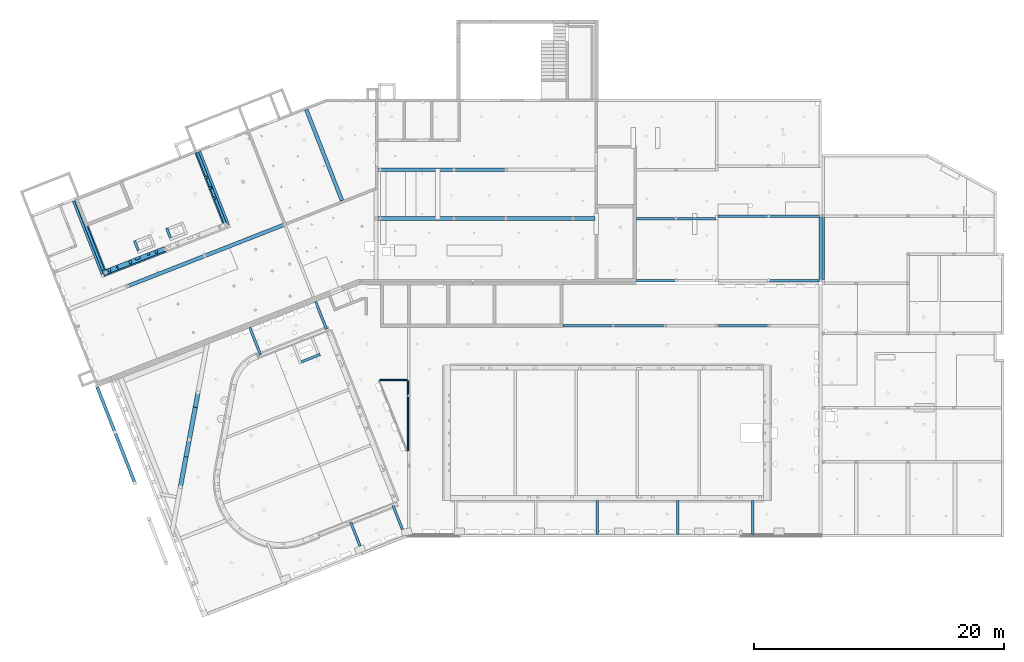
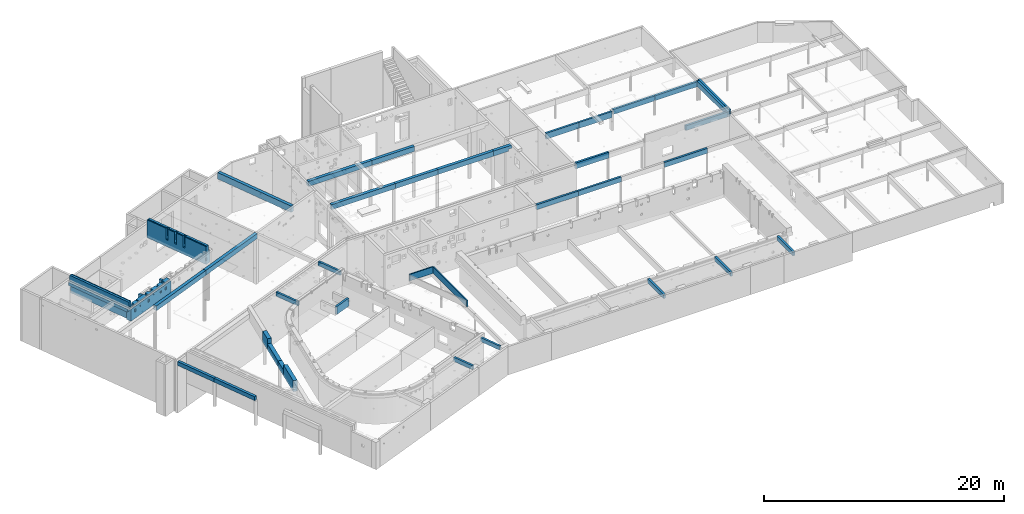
# One storey, part 4 of 28: 41 beams, 21 openings.
"""IFC2X3 building model written with IfcOpenShell, lengths in metres."""

from ifc_helpers import new_model, entity, si_unit, converted_unit, direction, frame, frame_2d, origin, origin_with_axes, place, context, subcontext, project, spatial, polyline, rectangle, outline, extrude, material, element, save


model = new_model("IFC2X3")

# Units and contexts
model_context = context("Model", 3, precision=1e-05, world=origin(), true_north=direction((-0.407059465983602, -0.913401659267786)))
body_context = subcontext(model_context, "Body", "Model", "MODEL_VIEW")
ifc_project = project(units=[si_unit("LENGTHUNIT", "METRE"), si_unit("AREAUNIT", "SQUARE_METRE"), si_unit("VOLUMEUNIT", "CUBIC_METRE"), si_unit("MASSUNIT", "GRAM", prefix="KILO"), converted_unit("PLANEANGLEUNIT", "DEGREE", entity("IfcPlaneAngleMeasure", 0.0174532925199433), si_unit("PLANEANGLEUNIT", "RADIAN"), dimensions=[0, 0, 0, 0, 0, 0, 0])], contexts=[model_context])

# Site, buildings, storey
site_placement = place(None, origin())
site = spatial("IfcSite", under=ifc_project, at=site_placement, Name="Site", CompositionType="ELEMENT")
building_1_placement = place(site_placement, origin())
building_1 = spatial("IfcBuilding", under=site, at=building_1_placement, Name="Site", CompositionType="COMPLEX")
building_2_placement = place(building_1_placement, origin())
building_2 = spatial("IfcBuilding", under=building_1, at=building_2_placement, Name="Bâtiments", CompositionType="ELEMENT")
storey_placement = place(building_2_placement, frame((0.0, 0.0, -5.3)))
storey = spatial("IfcBuildingStorey", under=building_2, at=storey_placement, Name="SOUS-SOL", CompositionType="ELEMENT", Elevation=-5.3)

# Beams
ifc_material_1 = material(Name="Béton")
beam_1_placement = place(storey_placement, frame((8.2763152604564, -1.96282731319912, 3.35), z_axis=(0.0, 0.0, 1.0), x_axis=(0.36523267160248, -0.930916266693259, 0.0)))
element("IfcBeam", 1, at=beam_1_placement, inside=storey, material=ifc_material_1, Name="PoR 00", context=body_context, shape_type="SweptSolid", body=[
    extrude(rectangle(XDim=0.199999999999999, YDim=0.62, at=frame_2d((0.0999999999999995, 0.31), x_axis=(1.0, 0.0))), frame((0.0, 0.0, 0.0), z_axis=(1.0, 0.0, 0.0), x_axis=(0.0, 1.0, 0.0)), (0.0, 0.0, 1.0), 0.849999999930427),
])
ifc_material_2 = material(Name="Béton")
beam_2_placement = place(storey_placement, frame((10.8546356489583, -0.952376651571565, 3.35), z_axis=(0.0, 0.0, 1.0), x_axis=(0.365232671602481, -0.930916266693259, 0.0)))
element("IfcBeam", 2, at=beam_2_placement, inside=storey, material=ifc_material_2, Name="PoR 00", context=body_context, shape_type="SweptSolid", body=[
    extrude(rectangle(XDim=0.2, YDim=0.62, at=frame_2d((0.1, 0.31), x_axis=(1.0, 0.0))), frame((0.0, 0.0, 0.0), z_axis=(1.0, 0.0, 0.0), x_axis=(0.0, 1.0, 0.0)), (0.0, 0.0, 1.0), 0.849989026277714),
])

# Beam, openings
ifc_material_3 = material(Name="Béton")
beam_3_placement = place(storey_placement, frame((5.95754285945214, -4.80607130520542, 3.72), z_axis=(0.0, 0.0, 1.0), x_axis=(0.93091065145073, 0.365246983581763, 0.0)))
beam_3 = element("IfcBeam", 3, at=beam_3_placement, inside=storey, material=ifc_material_3, Name="PoR 001", context=body_context, shape_type="SweptSolid", body=[
    extrude(outline(polyline([(1.33, 0.390003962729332), (1.23, 0.390003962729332), (1.23, 0.500003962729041), (0.0, 0.500003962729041), (0.0, 0.0), (1.33, 3.96273035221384e-06), (1.33, 0.390003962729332)])), frame((0.0, 0.500003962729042, 0.0), z_axis=(1.0, 0.0, 0.0), x_axis=(0.0, 0.0, 1.0)), (0.0, 0.0, 1.0), 5.33638093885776),
])
opening_1_placement = place(beam_3_placement, frame((0.359028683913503, 0.500002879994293, 0.25), z_axis=(-1.48517478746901e-06, -0.999999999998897, 0.0), x_axis=(0.0, 0.0, 1.0)))
element("IfcOpeningElement", 4, at=opening_1_placement, cuts=beam_3, Name="Rainure X", ObjectType="Opening", context=body_context, shape_type="SweptSolid", body=[
    extrude(outline(polyline([(0.0, 0.0499999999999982), (1.33, 0.0499999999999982), (1.33, 0.0), (0.0, 0.0), (0.0, 0.0499999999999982)])), origin_with_axes(), (0.0, 0.0, 1.0), 0.0500000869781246),
])
opening_2_placement = place(beam_3_placement, frame((4.03404101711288, 0.299997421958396, 0.74), z_axis=(-1.48517478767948e-06, -0.999999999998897, 0.0), x_axis=(0.0, 0.0, 1.0)))
element("IfcOpeningElement", 5, at=opening_2_placement, cuts=beam_3, Name="Percement dans mur", ObjectType="Opening", context=body_context, shape_type="SweptSolid", body=[
    extrude(outline(polyline([(0.0, 0.200000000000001), (0.2, 0.200000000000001), (0.2, 0.0), (0.0, 0.0), (0.0, 0.200000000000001)])), origin_with_axes(), (0.0, 0.0, 1.0), 0.299999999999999),
])
opening_3_placement = place(beam_3_placement, frame((4.70404086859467, 0.199996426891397, 0.68), z_axis=(-1.48517478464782e-06, -0.999999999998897, 0.0), x_axis=(0.0, 0.0, 1.0)))
element("IfcOpeningElement", 6, at=opening_3_placement, cuts=beam_3, Name="Percement dans mur", ObjectType="Opening", context=body_context, shape_type="SweptSolid", body=[
    extrude(outline(polyline([(0.0, 0.200000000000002), (0.3, 0.200000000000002), (0.3, 0.0), (0.0, 0.0), (0.0, 0.200000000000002)])), origin_with_axes(), (0.0, 0.0, 1.0), 0.2),
])
opening_4_placement = place(beam_3_placement, frame((3.08403716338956, 0.299998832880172, 1.03), z_axis=(-1.48517479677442e-06, -0.999999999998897, 0.0), x_axis=(0.0, 0.0, 1.0)))
element("IfcOpeningElement", 7, at=opening_4_placement, cuts=beam_3, Name="Percement dans mur", ObjectType="Opening", context=body_context, shape_type="SweptSolid", body=[
    extrude(outline(polyline([(0.0, 0.100000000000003), (0.1, 0.100000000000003), (0.1, 0.0), (0.0, 0.0), (0.0, 0.100000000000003)])), origin_with_axes(), (0.0, 0.0, 1.0), 0.299999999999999),
])
opening_5_placement = place(beam_3_placement, frame((2.45902093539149, 0.199999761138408, 0.68), z_axis=(-1.48517478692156e-06, -0.999999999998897, 0.0), x_axis=(0.0, 0.0, 1.0)))
element("IfcOpeningElement", 8, at=opening_5_placement, cuts=beam_3, Name="Percement dans mur", ObjectType="Opening", context=body_context, shape_type="SweptSolid", body=[
    extrude(outline(polyline([(0.0, 0.200000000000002), (0.3, 0.200000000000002), (0.3, 0.0), (0.0, 0.0), (0.0, 0.200000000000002)])), origin_with_axes(), (0.0, 0.0, 1.0), 0.199999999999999),
])
opening_6_placement = place(beam_3_placement, frame((1.28402222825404, 0.220001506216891, 0.83), z_axis=(-1.4851747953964e-06, -0.999999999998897, 0.0), x_axis=(0.0, 0.0, 1.0)))
element("IfcOpeningElement", 9, at=opening_6_placement, cuts=beam_3, Name="Percement dans mur", ObjectType="Opening", context=body_context, shape_type="SweptSolid", body=[
    extrude(outline(polyline([(0.0, 0.1), (0.15, 0.1), (0.15, 0.0), (0.0, 0.0), (0.0, 0.1)])), origin_with_axes(), (0.0, 0.0, 1.0), 0.220000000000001),
])
opening_7_placement = place(beam_3_placement, frame((0.659029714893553, 0.200002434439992, 0.68), z_axis=(-1.48517480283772e-06, -0.999999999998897, 0.0), x_axis=(0.0, 0.0, 1.0)))
element("IfcOpeningElement", 10, at=opening_7_placement, cuts=beam_3, Name="Percement dans mur", ObjectType="Opening", context=body_context, shape_type="SweptSolid", body=[
    extrude(outline(polyline([(0.0, 0.199999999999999), (0.3, 0.199999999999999), (0.3, 0.0), (0.0, 0.0), (0.0, 0.199999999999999)])), origin_with_axes(), (0.0, 0.0, 1.0), 0.2),
])
opening_8_placement = place(beam_3_placement, frame((2.45902138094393, 0.499999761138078, 0.68), z_axis=(-1.4851747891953e-06, -0.999999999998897, 0.0), x_axis=(0.0, 0.0, 1.0)))
element("IfcOpeningElement", 11, at=opening_8_placement, cuts=beam_3, Name="N°8", ObjectType="Opening", context=body_context, shape_type="SweptSolid", body=[
    extrude(outline(polyline([(0.0, 0.2), (0.65, 0.2), (0.65, 0.0), (0.0, 0.0), (0.0, 0.2)])), origin_with_axes(), (0.0, 0.0, 1.0), 0.3),
])
opening_9_placement = place(beam_3_placement, frame((1.28402264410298, 0.50000150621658, 0.83), z_axis=(-1.48517479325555e-06, -0.999999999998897, 0.0), x_axis=(0.0, 0.0, 1.0)))
element("IfcOpeningElement", 12, at=opening_9_placement, cuts=beam_3, Name="N°11", ObjectType="Opening", context=body_context, shape_type="SweptSolid", body=[
    extrude(outline(polyline([(0.0, 0.0999999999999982), (0.5, 0.0999999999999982), (0.5, 0.0), (0.0, 0.0), (0.0, 0.0999999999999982)])), origin_with_axes(), (0.0, 0.0, 1.0), 0.279999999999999),
])
opening_10_placement = place(beam_3_placement, frame((3.23403746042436, 0.499998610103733, 0.68), z_axis=(-1.48517478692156e-06, -0.999999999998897, 0.0), x_axis=(0.0, 0.0, 1.0)))
element("IfcOpeningElement", 13, at=opening_10_placement, cuts=beam_3, Name="N°6", ObjectType="Opening", context=body_context, shape_type="SweptSolid", body=[
    extrude(outline(polyline([(0.0, 0.400000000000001), (0.65, 0.400000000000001), (0.65, 0.0), (0.0, 0.0), (0.0, 0.400000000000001)])), origin_with_axes(), (0.0, 0.0, 1.0), 0.199999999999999),
])
opening_11_placement = place(beam_3_placement, frame((4.03404131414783, 0.499997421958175, 0.74), z_axis=(-1.48517480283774e-06, -0.999999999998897, 0.0), x_axis=(0.0, 0.0, 1.0)))
element("IfcOpeningElement", 14, at=opening_11_placement, cuts=beam_3, Name="N°4", ObjectType="Opening", context=body_context, shape_type="SweptSolid", body=[
    extrude(outline(polyline([(0.0, 0.200000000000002), (0.59, 0.200000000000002), (0.59, 0.0), (0.0, 0.0), (0.0, 0.200000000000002)])), origin_with_axes(), (0.0, 0.0, 1.0), 0.199999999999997),
])
opening_12_placement = place(beam_3_placement, frame((4.70404131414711, 0.499996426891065, 0.68), z_axis=(-1.48517479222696e-06, -0.999999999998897, 0.0), x_axis=(0.0, 0.0, 1.0)))
element("IfcOpeningElement", 15, at=opening_12_placement, cuts=beam_3, Name="N°8", ObjectType="Opening", context=body_context, shape_type="SweptSolid", body=[
    extrude(outline(polyline([(0.0, 0.2), (0.65, 0.2), (0.65, 0.0), (0.0, 0.0), (0.0, 0.2)])), origin_with_axes(), (0.0, 0.0, 1.0), 0.299999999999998),
])
opening_13_placement = place(beam_3_placement, frame((0.659030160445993, 0.500002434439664, 0.68), z_axis=(-1.48517479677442e-06, -0.999999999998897, 0.0), x_axis=(0.0, 0.0, 1.0)))
element("IfcOpeningElement", 16, at=opening_13_placement, cuts=beam_3, Name="N°9", ObjectType="Opening", context=body_context, shape_type="SweptSolid", body=[
    extrude(outline(polyline([(0.0, 0.199999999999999), (0.65, 0.199999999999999), (0.65, 0.0), (0.0, 0.0), (0.0, 0.199999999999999)])), origin_with_axes(), (0.0, 0.0, 1.0), 0.3),
])

# Beams
ifc_material_4 = material(Name="Béton")
beam_4_placement = place(storey_placement, frame((13.9273247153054, -3.01062935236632, 4.66), z_axis=(0.0, 0.0, 1.0), x_axis=(-0.930910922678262, -0.365246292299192, 0.0)))
element("IfcBeam", 17, at=beam_4_placement, inside=storey, material=ifc_material_4, Name="Po 004", context=body_context, shape_type="SweptSolid", body=[
    extrude(rectangle(XDim=0.299999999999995, YDim=0.5, at=frame_2d((0.149999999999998, 0.25), x_axis=(1.0, 0.0))), frame((0.0, 0.0, 0.0), z_axis=(1.0, 0.0, 0.0), x_axis=(0.0, 1.0, 0.0)), (0.0, 0.0, 1.0), 6.61693895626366),
])
ifc_material_5 = material(Name="Béton")
beam_5_placement = place(storey_placement, frame((20.3599322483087, -0.486772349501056, 4.66), z_axis=(0.0, 0.0, 1.0), x_axis=(-0.930910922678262, -0.365246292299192, 0.0)))
element("IfcBeam", 18, at=beam_5_placement, inside=storey, material=ifc_material_5, Name="Po 005", context=body_context, shape_type="SweptSolid", body=[
    extrude(rectangle(XDim=0.299999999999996, YDim=0.5, at=frame_2d((0.149999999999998, 0.25), x_axis=(1.0, 0.0))), frame((0.0, 0.0, 0.0), z_axis=(1.0, 0.0, 0.0), x_axis=(0.0, 1.0, 0.0)), (0.0, 0.0, 1.0), 6.91001402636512),
])
ifc_material_6 = material(Name="Béton")
beam_6_placement = place(storey_placement, frame((21.991871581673, 8.52116927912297, 4.53), z_axis=(0.0, 0.0, 1.0), x_axis=(0.365246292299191, -0.930910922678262, 0.0)))
element("IfcBeam", 19, at=beam_6_placement, inside=storey, material=ifc_material_6, Name="Po 009", context=body_context, shape_type="SweptSolid", body=[
    extrude(rectangle(XDim=0.3, YDim=0.65, at=frame_2d((0.15, 0.325), x_axis=(1.0, 0.0))), frame((0.0, 0.0, 0.0), z_axis=(1.0, 0.0, 0.0), x_axis=(0.0, 1.0, 0.0)), (0.0, 0.0, 1.0), 7.83953146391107),
])
ifc_material_7 = material(Name="Béton")
beam_7_placement = place(storey_placement, frame((27.8826390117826, 3.60172912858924, 4.68), z_axis=(0.0, 0.0, 1.0), x_axis=(1.0, -2.13917543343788e-09, 0.0)))
element("IfcBeam", 20, at=beam_7_placement, inside=storey, material=ifc_material_7, Name="Po 012", context=body_context, shape_type="SweptSolid", body=[
    extrude(rectangle(XDim=0.3, YDim=0.5, at=frame_2d((0.15, 0.25), x_axis=(1.0, 0.0))), frame((0.0, 0.0, 0.0), z_axis=(1.0, 0.0, 0.0), x_axis=(0.0, 1.0, 0.0)), (0.0, 0.0, 1.0), 6.13927240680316),
])
ifc_material_8 = material(Name="Béton")
beam_8_placement = place(storey_placement, frame((34.021911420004, 3.60172911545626, 4.68), z_axis=(0.0, 0.0, 1.0), x_axis=(1.0, 4.4922996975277e-10, 0.0)))
element("IfcBeam", 21, at=beam_8_placement, inside=storey, material=ifc_material_8, Name="Po 013", context=body_context, shape_type="SweptSolid", body=[
    extrude(rectangle(XDim=0.3, YDim=0.5, at=frame_2d((0.15, 0.25), x_axis=(1.0, 0.0))), frame((0.0, 0.0, 0.0), z_axis=(1.0, 0.0, 0.0), x_axis=(0.0, 1.0, 0.0)), (0.0, 0.0, 1.0), 4.09655083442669),
])
ifc_material_9 = material(Name="Béton")
beam_9_placement = place(storey_placement, frame((27.8826390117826, -0.298270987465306, 4.68), z_axis=(0.0, 0.0, 1.0), x_axis=(1.0, -2.13917543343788e-09, 0.0)))
element("IfcBeam", 22, at=beam_9_placement, inside=storey, material=ifc_material_9, Name="Po 020", context=body_context, shape_type="SweptSolid", body=[
    extrude(rectangle(XDim=0.3, YDim=0.5, at=frame_2d((0.15, 0.25), x_axis=(1.0, 0.0))), frame((0.0, 0.0, 0.0), z_axis=(1.0, 0.0, 0.0), x_axis=(0.0, 1.0, 0.0)), (0.0, 0.0, 1.0), 6.13927240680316),
])
ifc_material_10 = material(Name="Béton")
beam_10_placement = place(storey_placement, frame((34.0219114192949, -0.298270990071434, 4.68), z_axis=(0.0, 0.0, 1.0), x_axis=(1.0, 4.4922996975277e-10, 0.0)))
element("IfcBeam", 23, at=beam_10_placement, inside=storey, material=ifc_material_10, Name="Po 021", context=body_context, shape_type="SweptSolid", body=[
    extrude(rectangle(XDim=0.3, YDim=0.5, at=frame_2d((0.15, 0.25), x_axis=(1.0, 0.0))), frame((0.0, 0.0, 0.0), z_axis=(1.0, 0.0, 0.0), x_axis=(0.0, 1.0, 0.0)), (0.0, 0.0, 1.0), 4.09655083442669),
])
ifc_material_11 = material(Name="Béton")
beam_11_placement = place(storey_placement, frame((38.1184622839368, -0.298264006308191, 4.68), z_axis=(0.0, 0.0, 1.0), x_axis=(1.0, 4.537457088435e-10, 0.0)))
element("IfcBeam", 24, at=beam_11_placement, inside=storey, material=ifc_material_11, Name="Po 022", context=body_context, shape_type="SweptSolid", body=[
    extrude(rectangle(XDim=0.3, YDim=0.5, at=frame_2d((0.15, 0.25), x_axis=(1.0, 0.0))), frame((0.0, 0.0, 0.0), z_axis=(1.0, 0.0, 0.0), x_axis=(0.0, 1.0, 0.0)), (0.0, 0.0, 1.0), 5.37385864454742),
])

# Beam, opening
ifc_material_12 = material(Name="Béton")
beam_12_placement = place(storey_placement, frame((43.4923209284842, -0.298264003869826, 4.68), z_axis=(0.0, 0.0, 1.0), x_axis=(1.0, -2.13917541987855e-09, 0.0)))
beam_12 = element("IfcBeam", 25, at=beam_12_placement, inside=storey, material=ifc_material_12, Name="Po 023", context=body_context, shape_type="SweptSolid", body=[
    extrude(rectangle(XDim=0.3, YDim=0.5, at=frame_2d((0.15, 0.25), x_axis=(1.0, 0.0))), frame((0.0, 0.0, 0.0), z_axis=(1.0, 0.0, 0.0), x_axis=(0.0, 1.0, 0.0)), (0.0, 0.0, 1.0), 1.75032315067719),
])
opening_14_placement = place(beam_12_placement, frame((1.75032480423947, 0.299986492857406, 0.0), z_axis=(2.13917549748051e-09, -1.0, 0.0), x_axis=(0.0, 0.0, 1.0)))
element("IfcOpeningElement", 26, at=opening_14_placement, cuts=beam_12, Name="EL-022", ObjectType="Opening", context=body_context, shape_type="SweptSolid", body=[
    extrude(outline(polyline([(0.0, 0.35), (0.2, 0.35), (0.2, 0.0), (0.0, 0.0), (0.0, 0.35)])), origin_with_axes(), (0.0, 0.0, 1.0), 0.3),
])

# Beams
ifc_material_13 = material(Name="Béton")
beam_13_placement = place(storey_placement, frame((42.6996013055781, -8.83391058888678, 4.66), z_axis=(0.0, 0.0, 1.0), x_axis=(0.999999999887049, -1.50300277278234e-05, 0.0)))
element("IfcBeam", 27, at=beam_13_placement, inside=storey, material=ifc_material_13, Name="Po 040", context=body_context, shape_type="SweptSolid", body=[
    extrude(rectangle(XDim=0.199999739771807, YDim=0.5, at=frame_2d((0.0999998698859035, 0.25), x_axis=(1.0, 0.0))), frame((0.0, 0.0, 0.0), z_axis=(1.0, 0.0, 0.0), x_axis=(0.0, 1.0, 0.0)), (0.0, 0.0, 1.0), 4.01304038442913),
])
ifc_material_14 = material(Name="Béton")
beam_14_placement = place(storey_placement, frame((46.7126500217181, -8.83397090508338, 4.66), z_axis=(0.0, 0.0, 1.0), x_axis=(0.999999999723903, 2.34987893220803e-05, 0.0)))
element("IfcBeam", 28, at=beam_14_placement, inside=storey, material=ifc_material_14, Name="Po 041", context=body_context, shape_type="SweptSolid", body=[
    extrude(rectangle(XDim=0.199999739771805, YDim=0.5, at=frame_2d((0.0999998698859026, 0.25), x_axis=(1.0, 0.0))), frame((0.0, 0.0, 0.0), z_axis=(1.0, 0.0, 0.0), x_axis=(0.0, 1.0, 0.0)), (0.0, 0.0, 1.0), 4.1500044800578),
])
ifc_material_15 = material(Name="Béton")
beam_15_placement = place(storey_placement, frame((55.0126521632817, -8.83387390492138, 4.66), z_axis=(0.0, 0.0, 1.0), x_axis=(0.999999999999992, 1.2527502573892e-07, 0.0)))
element("IfcBeam", 29, at=beam_15_placement, inside=storey, material=ifc_material_15, Name="Po 043", context=body_context, shape_type="SweptSolid", body=[
    extrude(rectangle(XDim=0.199999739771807, YDim=0.5, at=frame_2d((0.0999998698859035, 0.25), x_axis=(1.0, 0.0))), frame((0.0, 0.0, 0.0), z_axis=(1.0, 0.0, 0.0), x_axis=(0.0, 1.0, 0.0)), (0.0, 0.0, 1.0), 4.14999999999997),
])
ifc_material_16 = material(Name="Béton")
beam_16_placement = place(storey_placement, frame((8.5223446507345, -21.2988772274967, 4.88), z_axis=(0.0, 0.0, 1.0), x_axis=(-0.365248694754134, 0.930909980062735, 0.0)))
element("IfcBeam", 30, at=beam_16_placement, inside=storey, material=ifc_material_16, Name="Po 067", context=body_context, shape_type="SweptSolid", body=[
    extrude(rectangle(XDim=0.249999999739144, YDim=0.4, at=frame_2d((0.124999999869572, 0.2), x_axis=(1.0, 0.0))), frame((0.0, 0.0, 0.0), z_axis=(1.0, 0.0, 0.0), x_axis=(0.0, 1.0, 0.0)), (0.0, 0.0, 1.0), 4.33437163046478),
])
ifc_material_17 = material(Name="Béton")
beam_17_placement = place(storey_placement, frame((6.9392210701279, -17.2639674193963, 4.88), z_axis=(0.0, 0.0, 1.0), x_axis=(-0.365248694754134, 0.930909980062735, 0.0)))
element("IfcBeam", 31, at=beam_17_placement, inside=storey, material=ifc_material_17, Name="Po 068", context=body_context, shape_type="SweptSolid", body=[
    extrude(rectangle(XDim=0.249999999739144, YDim=0.4, at=frame_2d((0.124999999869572, 0.2), x_axis=(1.0, 0.0))), frame((0.0, 0.0, 0.0), z_axis=(1.0, 0.0, 0.0), x_axis=(0.0, 1.0, 0.0)), (0.0, 0.0, 1.0), 3.90516050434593),
])
ifc_material_18 = material(Name="Béton")
beam_18_placement = place(storey_placement, frame((51.7385891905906, -0.248270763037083, 4.58), z_axis=(0.0, 0.0, 1.0), x_axis=(1.0, 4.53745668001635e-10, 0.0)))
element("IfcBeam", 32, at=beam_18_placement, inside=storey, material=ifc_material_18, Name="Po 025", context=body_context, shape_type="SweptSolid", body=[
    extrude(rectangle(XDim=0.2, YDim=0.6, at=frame_2d((0.1, 0.3), x_axis=(1.0, 0.0))), frame((0.0, 0.0, 0.0), z_axis=(1.0, 0.0, 0.0), x_axis=(0.0, 1.0, 0.0)), (0.0, 0.0, 1.0), 3.17389220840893),
])
ifc_material_19 = material(Name="Béton")
beam_19_placement = place(storey_placement, frame((48.5646969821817, -0.248270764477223, 4.58), z_axis=(0.0, 0.0, 1.0), x_axis=(1.0, 4.53745668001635e-10, 0.0)))
element("IfcBeam", 33, at=beam_19_placement, inside=storey, material=ifc_material_19, Name="Po 024", context=body_context, shape_type="SweptSolid", body=[
    extrude(rectangle(XDim=0.2, YDim=0.6, at=frame_2d((0.1, 0.3), x_axis=(1.0, 0.0))), frame((0.0, 0.0, 0.0), z_axis=(1.0, 0.0, 0.0), x_axis=(0.0, 1.0, 0.0)), (0.0, 0.0, 1.0), 3.17389220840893),
])
ifc_material_20 = material(Name="Béton")
beam_20_placement = place(storey_placement, frame((55.1124813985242, -0.0482709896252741, 4.68), z_axis=(0.0, 0.0, 1.0), x_axis=(1.0, 4.53745646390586e-10, 0.0)))
element("IfcBeam", 34, at=beam_20_placement, inside=storey, material=ifc_material_20, Name="Po 026", context=body_context, shape_type="SweptSolid", body=[
    extrude(rectangle(XDim=0.2, YDim=0.5, at=frame_2d((0.1, 0.25), x_axis=(1.0, 0.0))), frame((0.0, 0.0, 0.0), z_axis=(1.0, 0.0, 0.0), x_axis=(0.0, 1.0, 0.0)), (0.0, 0.0, 1.0), 4.05007138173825),
])
ifc_material_21 = material(Name="Béton")
beam_21_placement = place(storey_placement, frame((59.1625551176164, -0.0482709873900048, 4.68)))
element("IfcBeam", 35, at=beam_21_placement, inside=storey, material=ifc_material_21, Name="Po 027", context=body_context, shape_type="SweptSolid", body=[
    extrude(rectangle(XDim=0.2, YDim=0.5, at=frame_2d((0.1, 0.25), x_axis=(1.0, 0.0))), frame((0.0, 0.0, 0.0), z_axis=(1.0, 0.0, 0.0), x_axis=(0.0, 1.0, 0.0)), (0.0, 0.0, 1.0), 4.25083501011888),
])
ifc_material_22 = material(Name="Béton")
beam_22_placement = place(storey_placement, frame((63.4133901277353, -5.21895147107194, 4.76), z_axis=(0.0, 0.0, 1.0), x_axis=(0.0, 1.0, 0.0)))
element("IfcBeam", 36, at=beam_22_placement, inside=storey, material=ifc_material_22, Name="Po 058", context=body_context, shape_type="SweptSolid", body=[
    extrude(rectangle(XDim=0.2, YDim=0.5, at=frame_2d((0.1, 0.25), x_axis=(1.0, 0.0))), frame((0.0, 0.0, 0.0), z_axis=(1.0, 0.0, 0.0), x_axis=(0.0, 1.0, 0.0)), (0.0, 0.0, 1.0), 5.17068048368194),
])
ifc_material_23 = material(Name="Béton")
beam_23_placement = place(storey_placement, frame((59.1625551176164, -5.21895147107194, 4.76)))
element("IfcBeam", 37, at=beam_23_placement, inside=storey, material=ifc_material_23, Name="Po 037", context=body_context, shape_type="SweptSolid", body=[
    extrude(rectangle(XDim=0.200000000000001, YDim=0.5, at=frame_2d((0.1, 0.25), x_axis=(1.0, 0.0))), frame((0.0, 0.0, 0.0), z_axis=(1.0, 0.0, 0.0), x_axis=(0.0, 1.0, 0.0)), (0.0, 0.0, 1.0), 4.05083501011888),
])
ifc_material_24 = material(Name="Béton")
beam_24_placement = place(storey_placement, frame((63.6333927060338, -5.01896206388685, 4.76), z_axis=(0.0, 0.0, 1.0), x_axis=(-4.75225196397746e-08, 0.999999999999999, 0.0)))
element("IfcBeam", 38, at=beam_24_placement, inside=storey, material=ifc_material_24, Name="Po 059", context=body_context, shape_type="SweptSolid", body=[
    extrude(rectangle(XDim=0.2, YDim=0.5, at=frame_2d((0.1, 0.25), x_axis=(1.0, 0.0))), frame((0.0, 0.0, 0.0), z_axis=(1.0, 0.0, 0.0), x_axis=(0.0, 1.0, 0.0)), (0.0, 0.0, 1.0), 5.17068873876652),
])
ifc_material_25 = material(Name="Béton")
beam_25_placement = place(storey_placement, frame((48.5648131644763, -5.21894494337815, 4.58), z_axis=(0.0, 0.0, 1.0), x_axis=(1.0, 4.53745524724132e-10, 0.0)))
element("IfcBeam", 39, at=beam_25_placement, inside=storey, material=ifc_material_25, Name="Po 034", context=body_context, shape_type="SweptSolid", body=[
    extrude(rectangle(XDim=0.2, YDim=0.6, at=frame_2d((0.1, 0.3), x_axis=(1.0, 0.0))), frame((0.0, 0.0, 0.0), z_axis=(1.0, 0.0, 0.0), x_axis=(0.0, 1.0, 0.0)), (0.0, 0.0, 1.0), 3.17389220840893),
])

# Beam, openings
ifc_material_26 = material(Name="Béton")
beam_26_placement = place(storey_placement, frame((15.9756414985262, -0.608019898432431, 3.71999694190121), z_axis=(0.0, 0.0, 1.0), x_axis=(-0.365198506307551, 0.930929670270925, 0.0)))
beam_26 = element("IfcBeam", 40, at=beam_26_placement, inside=storey, material=ifc_material_26, Name="PoR 007", context=body_context, shape_type="SweptSolid", body=[
    extrude(outline(polyline([(1.82000098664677, 0.100004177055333), (1.84000098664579, 0.100003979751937), (1.84000305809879, 0.309980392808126), (1.23000305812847, 0.309986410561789), (1.23000493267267, 0.500002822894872), (4.93258727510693e-06, 0.500000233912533), (0.0, 0.0), (1.82000000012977, 4.17694769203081e-06), (1.82000098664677, 0.100004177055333)])), frame((0.0, 0.500002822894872, 0.0), z_axis=(1.0, 0.0, 0.0), x_axis=(0.0, 0.0, 1.0)), (0.0, 0.0, 1.0), 6.30105851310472),
])
opening_15_placement = place(beam_26_placement, frame((3.37571818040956, 0.299999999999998, 0.680003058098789), z_axis=(0.0, -1.0, 0.0), x_axis=(0.0, 0.0, 1.0)))
element("IfcOpeningElement", 41, at=opening_15_placement, cuts=beam_26, Name="Percement dans mur", ObjectType="Opening", context=body_context, shape_type="SweptSolid", body=[
    extrude(outline(polyline([(0.0, 0.2), (0.25, 0.2), (0.25, 0.0), (0.0, 0.0), (0.0, 0.2)])), origin_with_axes(), (0.0, 0.0, 1.0), 0.3),
])
opening_16_placement = place(beam_26_placement, frame((2.47574095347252, 0.3, 0.680003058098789), z_axis=(0.0, -1.0, 0.0), x_axis=(0.0, 0.0, 1.0)))
element("IfcOpeningElement", 42, at=opening_16_placement, cuts=beam_26, Name="Percement dans mur", ObjectType="Opening", context=body_context, shape_type="SweptSolid", body=[
    extrude(outline(polyline([(0.0, 0.2), (0.25, 0.2), (0.25, 0.0), (0.0, 0.0), (0.0, 0.2)])), origin_with_axes(), (0.0, 0.0, 1.0), 0.3),
])
opening_17_placement = place(beam_26_placement, frame((4.27573867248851, 0.299999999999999, 0.680003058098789), z_axis=(0.0, -1.0, 0.0), x_axis=(0.0, 0.0, 1.0)))
element("IfcOpeningElement", 43, at=opening_17_placement, cuts=beam_26, Name="Percement dans mur", ObjectType="Opening", context=body_context, shape_type="SweptSolid", body=[
    extrude(outline(polyline([(0.0, 0.2), (0.25, 0.2), (0.25, 0.0), (0.0, 0.0), (0.0, 0.2)])), origin_with_axes(), (0.0, 0.0, 1.0), 0.3),
])
opening_18_placement = place(beam_26_placement, frame((2.47574095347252, 0.500002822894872, 0.680003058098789), z_axis=(0.0, -1.0, 0.0), x_axis=(0.0, 0.0, 1.0)))
element("IfcOpeningElement", 44, at=opening_18_placement, cuts=beam_26, Name="N°7", ObjectType="Opening", context=body_context, shape_type="SweptSolid", body=[
    extrude(outline(polyline([(0.0, 0.2), (1.16, 0.2), (1.16, 0.0), (0.0, 0.0), (0.0, 0.2)])), origin_with_axes(), (0.0, 0.0, 1.0), 0.20000282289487),
])
opening_19_placement = place(beam_26_placement, frame((3.37571818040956, 0.500002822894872, 0.680003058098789), z_axis=(0.0, -1.0, 0.0), x_axis=(0.0, 0.0, 1.0)))
element("IfcOpeningElement", 45, at=opening_19_placement, cuts=beam_26, Name="Percement dans mur", ObjectType="Opening", context=body_context, shape_type="SweptSolid", body=[
    extrude(outline(polyline([(0.0, 0.2), (1.16, 0.2), (1.16, 0.0), (0.0, 0.0), (0.0, 0.2)])), origin_with_axes(), (0.0, 0.0, 1.0), 0.200002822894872),
])
opening_20_placement = place(beam_26_placement, frame((4.27573867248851, 0.500002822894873, 0.680003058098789), z_axis=(4.54740932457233e-15, -1.0, 0.0), x_axis=(0.0, 0.0, 1.0)))
element("IfcOpeningElement", 46, at=opening_20_placement, cuts=beam_26, Name="N°7", ObjectType="Opening", context=body_context, shape_type="SweptSolid", body=[
    extrude(outline(polyline([(0.0, 0.2), (1.16, 0.2), (1.16, 0.0), (0.0, 0.0), (0.0, 0.2)])), origin_with_axes(), (0.0, 0.0, 1.0), 0.200002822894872),
])
opening_21_placement = place(beam_26_placement, frame((3.37571818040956, 0.500002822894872, 1.53000305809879), z_axis=(0.0, -1.0, 0.0), x_axis=(0.0, 0.0, 1.0)))
element("IfcOpeningElement", 47, at=opening_21_placement, cuts=beam_26, Name="N°7a", ObjectType="Opening", context=body_context, shape_type="SweptSolid", body=[
    extrude(outline(polyline([(0.0, 0.2), (0.31, 0.2), (0.31, 0.0), (0.0, 0.0), (0.0, 0.2)])), origin_with_axes(), (0.0, 0.0, 1.0), 0.270002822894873),
])

# Beams
ifc_material_27 = material(Name="Béton")
beam_27_placement = place(storey_placement, frame((12.5799756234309, -17.8293974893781, 4.66), z_axis=(0.0, 0.0, 1.0), x_axis=(-0.183443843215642, -0.98303019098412, 0.0)))
element("IfcBeam", 48, at=beam_27_placement, inside=storey, material=ifc_material_27, Name="PoR 069", context=body_context, shape_type="SweptSolid", body=[
    extrude(rectangle(XDim=0.36, YDim=0.61, at=frame_2d((0.18, 0.305), x_axis=(1.0, 0.0))), frame((0.0, 0.0, 0.0), z_axis=(1.0, 0.0, 0.0), x_axis=(0.0, 1.0, 0.0)), (0.0, 0.0, 1.0), 1.40476968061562),
])
ifc_material_28 = material(Name="Béton")
beam_28_placement = place(storey_placement, frame((13.2827293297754, -14.063514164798, 4.66), z_axis=(0.0, 0.0, 1.0), x_axis=(-0.183443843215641, -0.98303019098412, 0.0)))
element("IfcBeam", 49, at=beam_28_placement, inside=storey, material=ifc_material_28, Name="PoR 069", context=body_context, shape_type="SweptSolid", body=[
    extrude(rectangle(XDim=0.359999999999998, YDim=1.12, at=frame_2d((0.179999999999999, 0.56), x_axis=(1.0, 0.0))), frame((0.0, 0.0, 0.0), z_axis=(1.0, 0.0, 0.0), x_axis=(0.0, 1.0, 0.0)), (0.0, 0.0, 1.0), 1.19689751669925),
])
ifc_material_29 = material(Name="Béton")
beam_29_placement = place(storey_placement, frame((28.9871760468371, -23.1818182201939, 4.76), z_axis=(0.0, 0.0, 1.0), x_axis=(0.365248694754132, -0.930909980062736, 0.0)))
element("IfcBeam", 50, at=beam_29_placement, inside=storey, material=ifc_material_29, Name="Po 075", context=body_context, shape_type="SweptSolid", body=[
    extrude(rectangle(XDim=0.19999955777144, YDim=0.4, at=frame_2d((0.0999997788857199, 0.2), x_axis=(1.0, 0.0))), frame((0.0, 0.0, 0.0), z_axis=(1.0, 0.0, 0.0), x_axis=(0.0, 1.0, 0.0)), (0.0, 0.0, 1.0), 2.0492),
])
ifc_material_30 = material(Name="Béton")
beam_30_placement = place(storey_placement, frame((25.5970140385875, -24.511975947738, 4.76), z_axis=(0.0, 0.0, 1.0), x_axis=(0.365248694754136, -0.930909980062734, 0.0)))
element("IfcBeam", 51, at=beam_30_placement, inside=storey, material=ifc_material_30, Name="Po 074", context=body_context, shape_type="SweptSolid", body=[
    extrude(rectangle(XDim=0.199999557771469, YDim=0.4, at=frame_2d((0.0999997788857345, 0.2), x_axis=(1.0, 0.0))), frame((0.0, 0.0, 0.0), z_axis=(1.0, 0.0, 0.0), x_axis=(0.0, 1.0, 0.0)), (0.0, 0.0, 1.0), 2.0513),
])
ifc_material_31 = material()
beam_31_placement = place(storey_placement, frame((45.5438147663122, -25.4449220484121, 4.76), z_axis=(0.0, 0.0, 1.0), x_axis=(-1.0796725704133e-14, 1.0, 0.0)))
element("IfcBeam", 52, at=beam_31_placement, inside=storey, material=ifc_material_31, Name="Po 081", context=body_context, shape_type="SweptSolid", body=[
    extrude(rectangle(XDim=0.19999955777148, YDim=0.4, at=frame_2d((0.09999977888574, 0.2), x_axis=(1.0, 0.0))), frame((0.0, 0.0, 0.0), z_axis=(1.0, 0.0, 0.0), x_axis=(0.0, 1.0, 0.0)), (0.0, 0.0, 1.0), 2.69561636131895),
])
ifc_material_32 = material(Name="Béton")
beam_32_placement = place(storey_placement, frame((51.993384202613, -25.4449220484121, 4.76), z_axis=(0.0, 0.0, 1.0), x_axis=(-1.0796725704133e-14, 1.0, 0.0)))
element("IfcBeam", 53, at=beam_32_placement, inside=storey, material=ifc_material_32, Name="Po 082", context=body_context, shape_type="SweptSolid", body=[
    extrude(rectangle(XDim=0.19999955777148, YDim=0.4, at=frame_2d((0.09999977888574, 0.2), x_axis=(1.0, 0.0))), frame((0.0, 0.0, 0.0), z_axis=(1.0, 0.0, 0.0), x_axis=(0.0, 1.0, 0.0)), (0.0, 0.0, 1.0), 2.69561636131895),
])
ifc_material_33 = material(Name="Béton")
beam_33_placement = place(storey_placement, frame((57.993384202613, -25.4449220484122, 4.76), z_axis=(0.0, 0.0, 1.0), x_axis=(-1.0796725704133e-14, 1.0, 0.0)))
element("IfcBeam", 54, at=beam_33_placement, inside=storey, material=ifc_material_33, Name="Po 083", context=body_context, shape_type="SweptSolid", body=[
    extrude(rectangle(XDim=0.19999955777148, YDim=0.4, at=frame_2d((0.09999977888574, 0.2), x_axis=(1.0, 0.0))), frame((0.0, 0.0, 0.0), z_axis=(1.0, 0.0, 0.0), x_axis=(0.0, 1.0, 0.0)), (0.0, 0.0, 1.0), 2.69561636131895),
])
ifc_material_34 = material(Name="Béton")
beam_34_placement = place(storey_placement, frame((28.0106091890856, -13.1241451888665, 5.16)))
element("IfcBeam", 55, at=beam_34_placement, inside=storey, material=ifc_material_34, Name="Po 084", context=body_context, shape_type="SweptSolid", body=[
    extrude(rectangle(XDim=0.11, YDim=0.67, at=frame_2d((0.055, 0.335), x_axis=(1.0, 0.0))), frame((0.0, 0.0, 0.0), z_axis=(1.0, 0.0, 0.0), x_axis=(0.0, 1.0, 0.0)), (0.0, 0.0, 1.0), 2.21728182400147),
])
ifc_material_35 = material(Name="Béton")
beam_35_placement = place(storey_placement, frame((30.2278910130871, -13.1241451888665, 5.16), z_axis=(0.0, 0.0, 1.0), x_axis=(0.0, -1.0, 0.0)))
element("IfcBeam", 56, at=beam_35_placement, inside=storey, material=ifc_material_35, Name="Po 084", context=body_context, shape_type="SweptSolid", body=[
    extrude(rectangle(XDim=0.11, YDim=0.67, at=frame_2d((0.055, 0.335), x_axis=(1.0, 0.0))), frame((0.0, 0.0, 0.0), z_axis=(1.0, 0.0, 0.0), x_axis=(0.0, 1.0, 0.0)), (0.0, 0.0, 1.0), 5.63983110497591),
])
ifc_material_36 = material(Name="Béton")
beam_36_placement = place(storey_placement, frame((17.5158364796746, -8.91916538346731, 4.76), z_axis=(0.0, 0.0, 1.0), x_axis=(0.365248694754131, -0.930909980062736, 0.0)))
element("IfcBeam", 57, at=beam_36_placement, inside=storey, material=ifc_material_36, Name="Po 085", context=body_context, shape_type="SweptSolid", body=[
    extrude(rectangle(XDim=0.199999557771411, YDim=0.4, at=frame_2d((0.0999997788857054, 0.2), x_axis=(1.0, 0.0))), frame((0.0, 0.0, 0.0), z_axis=(1.0, 0.0, 0.0), x_axis=(0.0, 1.0, 0.0)), (0.0, 0.0, 1.0), 2.3575),
])
ifc_material_37 = material(Name="Béton")
beam_37_placement = place(storey_placement, frame((13.0631658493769, -15.2401005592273, 4.66), z_axis=(0.0, 0.0, 1.0), x_axis=(-0.183443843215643, -0.98303019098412, 0.0)))
element("IfcBeam", 58, at=beam_37_placement, inside=storey, material=ifc_material_37, Name="PoR 071", context=body_context, shape_type="SweptSolid", body=[
    extrude(rectangle(XDim=0.359999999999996, YDim=0.61, at=frame_2d((0.179999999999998, 0.305), x_axis=(1.0, 0.0))), frame((0.0, 0.0, 0.0), z_axis=(1.0, 0.0, 0.0), x_axis=(0.0, 1.0, 0.0)), (0.0, 0.0, 1.0), 2.63399532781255),
])
ifc_material_38 = material(Name="Béton")
beam_38_placement = place(storey_placement, frame((22.7903667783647, -6.84967271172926, 4.76), z_axis=(0.0, 0.0, 1.0), x_axis=(0.365248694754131, -0.930909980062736, 0.0)))
element("IfcBeam", 59, at=beam_38_placement, inside=storey, material=ifc_material_38, Name="Po 084", context=body_context, shape_type="SweptSolid", body=[
    extrude(rectangle(XDim=0.199999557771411, YDim=0.4, at=frame_2d((0.0999997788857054, 0.2), x_axis=(1.0, 0.0))), frame((0.0, 0.0, 0.0), z_axis=(1.0, 0.0, 0.0), x_axis=(0.0, 1.0, 0.0)), (0.0, 0.0, 1.0), 2.3575),
])
ifc_material_39 = material(Name="Béton")
beam_39_placement = place(storey_placement, frame((12.322279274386, -19.2103284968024, 4.66), z_axis=(0.0, 0.0, 1.0), x_axis=(-0.183443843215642, -0.98303019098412, 0.0)))
element("IfcBeam", 60, at=beam_39_placement, inside=storey, material=ifc_material_39, Name="PoR 070", context=body_context, shape_type="SweptSolid", body=[
    extrude(rectangle(XDim=0.359999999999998, YDim=1.12, at=frame_2d((0.179999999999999, 0.56), x_axis=(1.0, 0.0))), frame((0.0, 0.0, 0.0), z_axis=(1.0, 0.0, 0.0), x_axis=(0.0, 1.0, 0.0)), (0.0, 0.0, 1.0), 2.42612322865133),
])
ifc_material_40 = material(Name="Béton")
beam_40_placement = place(storey_placement, frame((3.38815590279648, 1.22193663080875, 3.72), z_axis=(0.0, 0.0, 1.0), x_axis=(0.365246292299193, -0.930910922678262, 0.0)))
element("IfcBeam", 61, at=beam_40_placement, inside=storey, material=ifc_material_40, Name="PoR 006", context=body_context, shape_type="SweptSolid", body=[
    extrude(outline(polyline([(1.82, 0.100247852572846), (1.84, 0.100371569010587), (1.84, 0.309411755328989), (1.23, 0.309411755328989), (1.23, 0.499195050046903), (0.93, 0.499195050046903), (0.93, 0.199922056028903), (0.0, 0.199922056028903), (0.0, 0.000258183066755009), (1.82, 0.0), (1.82, 0.100247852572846)])), frame((0.0, 0.499195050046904, 0.0), z_axis=(1.0, 0.0, 0.0), x_axis=(0.0, 0.0, 1.0)), (0.0, 0.0, 1.0), 6.30105896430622),
])
ifc_material_41 = material(Name="Béton")
beam_41_placement = place(storey_placement, frame((21.7776747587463, -11.7238235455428, 3.06), z_axis=(0.0, 0.0, 1.0), x_axis=(0.930909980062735, 0.365248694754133, 0.0)))
element("IfcBeam", 62, at=beam_41_placement, inside=storey, material=ifc_material_41, Name="PoR 00", context=body_context, shape_type="SweptSolid", body=[
    extrude(rectangle(XDim=0.199998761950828, YDim=0.8, at=frame_2d((0.0999993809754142, 0.4), x_axis=(1.0, 0.0))), frame((0.0, 0.0, 0.0), z_axis=(1.0, 0.0, 0.0), x_axis=(0.0, 1.0, 0.0)), (0.0, 0.0, 1.0), 1.60999876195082),
])

save(model, "model.ifc")
